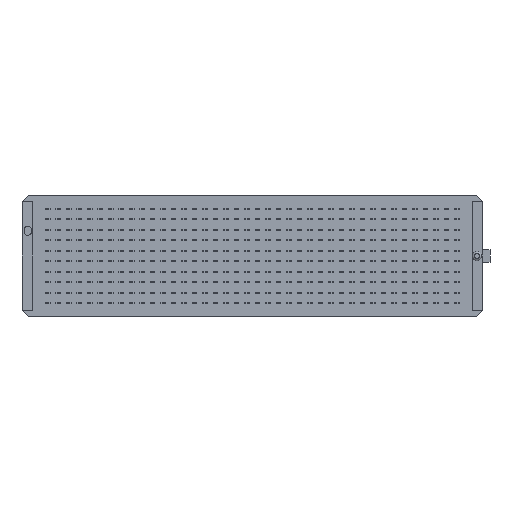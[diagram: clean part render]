
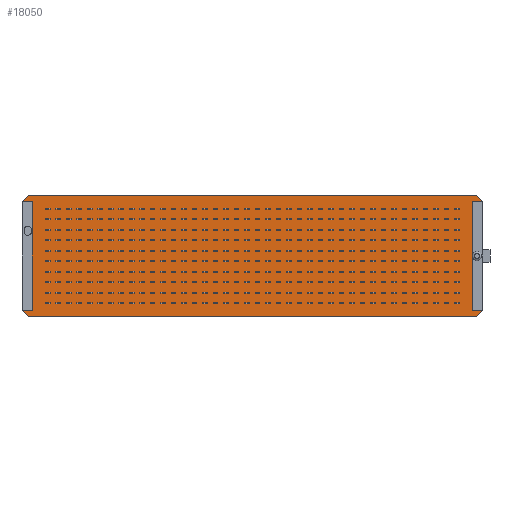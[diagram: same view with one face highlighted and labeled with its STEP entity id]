
A CAD part, front view. The second image highlights one B-rep face of the part: STEP entity #18050.
In plain terms, the highlighted planar face has unit normal (0, -1, 0).
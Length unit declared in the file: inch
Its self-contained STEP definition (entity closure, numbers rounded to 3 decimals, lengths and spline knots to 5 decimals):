
#18050 = ADVANCED_FACE( '', ( #45077 ), #45078, .F. );
#45077 = FACE_OUTER_BOUND( '', #81109, .T. );
#45078 = PLANE( '', #81110 );
#81109 = EDGE_LOOP( '', ( #139726, #139727, #139728, #139729, #139730, #139731, #139732, #139733, #139734, #139735, #139736, #139737 ) );
#81110 = AXIS2_PLACEMENT_3D( '', #139738, #139739, #139740 );
#139726 = ORIENTED_EDGE( '', *, *, #239893, .F. );
#139727 = ORIENTED_EDGE( '', *, *, #231546, .F. );
#139728 = ORIENTED_EDGE( '', *, *, #225763, .F. );
#139729 = ORIENTED_EDGE( '', *, *, #239894, .F. );
#139730 = ORIENTED_EDGE( '', *, *, #239895, .F. );
#139731 = ORIENTED_EDGE( '', *, *, #239896, .F. );
#139732 = ORIENTED_EDGE( '', *, *, #239897, .T. );
#139733 = ORIENTED_EDGE( '', *, *, #239898, .T. );
#139734 = ORIENTED_EDGE( '', *, *, #239899, .F. );
#139735 = ORIENTED_EDGE( '', *, *, #219808, .F. );
#139736 = ORIENTED_EDGE( '', *, *, #239900, .F. );
#139737 = ORIENTED_EDGE( '', *, *, #237058, .T. );
#139738 = CARTESIAN_POINT( '', ( 0., -0.044, 0. ) );
#139739 = DIRECTION( '', ( 0., 1., 0. ) );
#139740 = DIRECTION( '', ( 0., 0., 1. ) );
#219808 = EDGE_CURVE( '', #264272, #264274, #264275, .T. );
#225763 = EDGE_CURVE( '', #275016, #275018, #275019, .T. );
#231546 = EDGE_CURVE( '', #275018, #285339, #285345, .T. );
#237058 = EDGE_CURVE( '', #294531, #294528, #294532, .T. );
#239893 = EDGE_CURVE( '', #285339, #294528, #298969, .T. );
#239894 = EDGE_CURVE( '', #298970, #275016, #298971, .T. );
#239895 = EDGE_CURVE( '', #298972, #298970, #298973, .T. );
#239896 = EDGE_CURVE( '', #298974, #298972, #298975, .T. );
#239897 = EDGE_CURVE( '', #298974, #298976, #298977, .T. );
#239898 = EDGE_CURVE( '', #298976, #298978, #298979, .T. );
#239899 = EDGE_CURVE( '', #264274, #298978, #298980, .T. );
#239900 = EDGE_CURVE( '', #294531, #264272, #298981, .T. );
#264272 = VERTEX_POINT( '', #330541 );
#264274 = VERTEX_POINT( '', #330544 );
#264275 = LINE( '', #330545, #330546 );
#275016 = VERTEX_POINT( '', #347994 );
#275018 = VERTEX_POINT( '', #347997 );
#275019 = LINE( '', #347998, #347999 );
#285339 = VERTEX_POINT( '', #364376 );
#285345 = LINE( '', #364385, #364386 );
#294528 = VERTEX_POINT( '', #379403 );
#294531 = VERTEX_POINT( '', #379407 );
#294532 = LINE( '', #379408, #379409 );
#298969 = LINE( '', #386902, #386903 );
#298970 = VERTEX_POINT( '', #386904 );
#298971 = LINE( '', #386905, #386906 );
#298972 = VERTEX_POINT( '', #386907 );
#298973 = LINE( '', #386908, #386909 );
#298974 = VERTEX_POINT( '', #386910 );
#298975 = LINE( '', #386911, #386912 );
#298976 = VERTEX_POINT( '', #386913 );
#298977 = LINE( '', #386914, #386915 );
#298978 = VERTEX_POINT( '', #386916 );
#298979 = LINE( '', #386917, #386918 );
#298980 = LINE( '', #386919, #386920 );
#298981 = LINE( '', #386921, #386922 );
#330541 = CARTESIAN_POINT( '', ( 1.068, -0.044, -0.289 ) );
#330544 = CARTESIAN_POINT( '', ( -1.068, -0.044, -0.289 ) );
#330545 = CARTESIAN_POINT( '', ( 1.068, -0.044, -0.289 ) );
#330546 = VECTOR( '', #439907, 39.37008 );
#347994 = CARTESIAN_POINT( '', ( 1.068, -0.044, 0.289 ) );
#347997 = CARTESIAN_POINT( '', ( 1.098, -0.044, 0.259 ) );
#347998 = CARTESIAN_POINT( '', ( 1.068, -0.044, 0.289 ) );
#347999 = VECTOR( '', #445782, 39.37008 );
#364376 = CARTESIAN_POINT( '', ( 1.048, -0.044, 0.259 ) );
#364385 = CARTESIAN_POINT( '', ( 1.098, -0.044, 0.259 ) );
#364386 = VECTOR( '', #451471, 39.37008 );
#379403 = CARTESIAN_POINT( '', ( 1.048, -0.044, -0.259 ) );
#379407 = CARTESIAN_POINT( '', ( 1.098, -0.044, -0.259 ) );
#379408 = CARTESIAN_POINT( '', ( 1.098, -0.044, -0.259 ) );
#379409 = VECTOR( '', #456764, 39.37008 );
#386902 = CARTESIAN_POINT( '', ( 1.048, -0.044, 0.259 ) );
#386903 = VECTOR( '', #459410, 39.37008 );
#386904 = CARTESIAN_POINT( '', ( -1.068, -0.044, 0.289 ) );
#386905 = CARTESIAN_POINT( '', ( -1.068, -0.044, 0.289 ) );
#386906 = VECTOR( '', #459411, 39.37008 );
#386907 = CARTESIAN_POINT( '', ( -1.098, -0.044, 0.259 ) );
#386908 = CARTESIAN_POINT( '', ( -1.098, -0.044, 0.259 ) );
#386909 = VECTOR( '', #459412, 39.37008 );
#386910 = CARTESIAN_POINT( '', ( -1.048, -0.044, 0.259 ) );
#386911 = CARTESIAN_POINT( '', ( -1.048, -0.044, 0.259 ) );
#386912 = VECTOR( '', #459413, 39.37008 );
#386913 = CARTESIAN_POINT( '', ( -1.048, -0.044, -0.259 ) );
#386914 = CARTESIAN_POINT( '', ( -1.048, -0.044, 0.259 ) );
#386915 = VECTOR( '', #459414, 39.37008 );
#386916 = CARTESIAN_POINT( '', ( -1.098, -0.044, -0.259 ) );
#386917 = CARTESIAN_POINT( '', ( -1.048, -0.044, -0.259 ) );
#386918 = VECTOR( '', #459415, 39.37008 );
#386919 = CARTESIAN_POINT( '', ( -1.068, -0.044, -0.289 ) );
#386920 = VECTOR( '', #459416, 39.37008 );
#386921 = CARTESIAN_POINT( '', ( 1.098, -0.044, -0.259 ) );
#386922 = VECTOR( '', #459417, 39.37008 );
#439907 = DIRECTION( '', ( -1., 0., 0. ) );
#445782 = DIRECTION( '', ( 0.707, 0., -0.707 ) );
#451471 = DIRECTION( '', ( -1., 0., 0. ) );
#456764 = DIRECTION( '', ( -1., 0., 0. ) );
#459410 = DIRECTION( '', ( 0., 0., -1. ) );
#459411 = DIRECTION( '', ( 1., 0., 0. ) );
#459412 = DIRECTION( '', ( 0.707, 0., 0.707 ) );
#459413 = DIRECTION( '', ( -1., 0., 0. ) );
#459414 = DIRECTION( '', ( 0., 0., -1. ) );
#459415 = DIRECTION( '', ( -1., 0., 0. ) );
#459416 = DIRECTION( '', ( -0.707, 0., 0.707 ) );
#459417 = DIRECTION( '', ( -0.707, 0., -0.707 ) );
